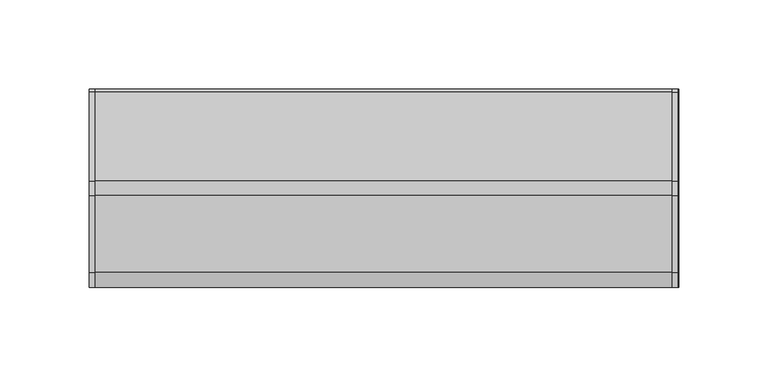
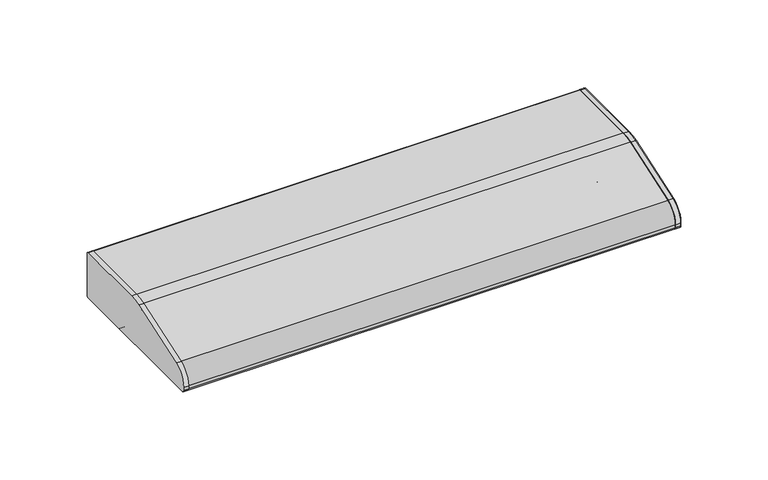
"""IFC4 building model written with IfcOpenShell, lengths in millimetres: light fixture geometry, HermanMiller_SupplementalProducts_G6136_UtilityTaskLight : AO Etho Canvas 24W."""

import ifcopenshell
import ifcopenshell.guid

model = None  # the IFC model being written
_history = None  # IfcOwnerHistory: only IFC2X3 demands one
_inside = {}  # id of a spatial element -> (the spatial element, [elements in it])
_under = {}  # id of a project, library or spatial element -> (it, [spatial elements below it])
_declared = {}  # id of a project -> (the project, [libraries it declares])
_typed = {}  # id of a type object -> (the type object, [elements of that type])
_made_of = {}  # id of a material, layer set ... -> (it, [elements and type objects made of it])


def new_model(schema):
    """Start an empty IFC model of exactly this schema.

    Asked for "IFC4X3", IfcOpenShell would pick the latest addendum, in which some entities
    have other attributes; the version numbers below select the first issue.
    IFC2X3 requires an IfcOwnerHistory on every rooted entity: one is made here for all.
    """
    global model, _history
    if schema == "IFC4X3":
        model = ifcopenshell.file(schema_version=(4, 3, 0, 0))
    else:
        model = ifcopenshell.file(schema=schema)
    _inside.clear()
    _under.clear()
    _declared.clear()
    _typed.clear()
    _made_of.clear()
    _history = None
    if model.schema == "IFC2X3":
        org = make("IfcOrganization", Name="unknown")
        user = make(
            "IfcPersonAndOrganization",
            ThePerson=make("IfcPerson", FamilyName="unknown"),
            TheOrganization=org,
        )
        app = make(
            "IfcApplication",
            ApplicationDeveloper=org,
            Version="unknown",
            ApplicationFullName="unknown",
            ApplicationIdentifier="unknown",
        )
        _history = make(
            "IfcOwnerHistory",
            OwningUser=user,
            OwningApplication=app,
            ChangeAction="ADDED",
            CreationDate=0,
        )
    return model


def make(cls, **values):
    """One entity of the class cls with the attributes given. An attribute that is None is left unset."""
    return model.create_entity(
        cls, **{name: value for name, value in values.items() if value is not None}
    )


def rooted(cls, **values):
    """An entity with a GlobalId (a new one), such as an element, a storey or a relation."""
    return make(cls, GlobalId=ifcopenshell.guid.new(), OwnerHistory=_history, **values)


def si_unit(unit_type, name, prefix=None):
    """IfcSIUnit, for example si_unit("LENGTHUNIT", "METRE", prefix="MILLI")."""
    return make("IfcSIUnit", UnitType=unit_type, Prefix=prefix, Name=name)


def assignment(units):
    """IfcUnitAssignment: the units of a project."""
    return None if units is None else make("IfcUnitAssignment", Units=units)


def point(xyz):
    """IfcCartesianPoint."""
    return None if xyz is None else make("IfcCartesianPoint", Coordinates=xyz)


def direction(xyz):
    """IfcDirection."""
    return None if xyz is None else make("IfcDirection", DirectionRatios=xyz)


def frame(location, z_axis=None, x_axis=None):
    """IfcAxis2Placement3D, a coordinate frame: its origin and axes. An axis left out is left unset."""
    return make(
        "IfcAxis2Placement3D",
        Location=point(location),
        Axis=direction(z_axis),
        RefDirection=direction(x_axis),
    )


def frame_2d(location, x_axis=None):
    """IfcAxis2Placement2D, a coordinate frame in the plane: its origin and x axis."""
    return make(
        "IfcAxis2Placement2D", Location=point(location), RefDirection=direction(x_axis)
    )


def origin():
    """The frame at (0, 0, 0) with its axes left unset."""
    return frame((0.0, 0.0, 0.0))


def place(relative_to, where):
    """IfcLocalPlacement: puts the frame where relative to a parent placement (None: the world)."""
    return make(
        "IfcLocalPlacement", PlacementRelTo=relative_to, RelativePlacement=where
    )


def context(
    kind, dimensions, precision=None, world=None, true_north=None, identifier=None
):
    """IfcGeometricRepresentationContext, for example the 3D "Model" context."""
    return make(
        "IfcGeometricRepresentationContext",
        ContextIdentifier=identifier,
        ContextType=kind,
        CoordinateSpaceDimension=dimensions,
        Precision=precision,
        WorldCoordinateSystem=world,
        TrueNorth=true_north,
    )


def project(units=None, contexts=None):
    """IfcProject with its units and contexts."""
    return rooted(
        "IfcProject",
        Name="project",
        RepresentationContexts=contexts,
        UnitsInContext=assignment(units),
    )


def spatial(cls, under=None, at=None, **own):
    """A site, building, storey or space (cls), placed at a placement, below another one or the project."""
    s = rooted(cls, ObjectPlacement=at, **own)
    if under is not None:
        _under.setdefault(under.id(), (under, []))[1].append(s)
    return s


def polyline(points):
    """IfcPolyline through the points."""
    return make("IfcPolyline", Points=[point(p) for p in points])


def circle_curve(where, radius):
    """IfcCircle in the frame where."""
    return make("IfcCircle", Position=where, Radius=radius)


def trimmed(basis, trim1, trim2, sense, master):
    """IfcTrimmedCurve: the piece of a basis curve between two trims."""
    return make(
        "IfcTrimmedCurve",
        BasisCurve=basis,
        Trim1=trim1,
        Trim2=trim2,
        SenseAgreement=sense,
        MasterRepresentation=master,
    )


def segment(curve, same_sense, transition):
    """IfcCompositeCurveSegment."""
    return make(
        "IfcCompositeCurveSegment",
        Transition=transition,
        SameSense=same_sense,
        ParentCurve=curve,
    )


def composite_curve(segments, self_intersect=None):
    """IfcCompositeCurve: segments joined end to end."""
    return make("IfcCompositeCurve", Segments=segments, SelfIntersect=self_intersect)


def outline(outer, holes=None, kind="AREA"):
    """IfcArbitraryClosedProfileDef: a profile drawn as a closed curve; with holes, ...WithVoids."""
    if holes is None:
        return make("IfcArbitraryClosedProfileDef", ProfileType=kind, OuterCurve=outer)
    return make(
        "IfcArbitraryProfileDefWithVoids",
        ProfileType=kind,
        OuterCurve=outer,
        InnerCurves=holes,
    )


def extrude(swept, where, along, depth):
    """IfcExtrudedAreaSolid: the profile swept, set in the frame where, extruded along a direction by depth."""
    return make(
        "IfcExtrudedAreaSolid",
        SweptArea=swept,
        Position=where,
        ExtrudedDirection=direction(along),
        Depth=depth,
    )


def shape(context_of_items, identifier, shape_type, items):
    """IfcShapeRepresentation: the items that make up one representation, for example the "Body"."""
    return make(
        "IfcShapeRepresentation",
        ContextOfItems=context_of_items,
        RepresentationIdentifier=identifier,
        RepresentationType=shape_type,
        Items=items,
    )


def source(mapping_origin, context_of_items, identifier, shape_type, items):
    """IfcRepresentationMap: a shape defined once, which mapped items show again and again."""
    return make(
        "IfcRepresentationMap",
        MappingOrigin=mapping_origin,
        MappedRepresentation=shape(context_of_items, identifier, shape_type, items),
    )


def transform(
    local_origin,
    x_axis=None,
    y_axis=None,
    z_axis=None,
    scale=None,
    scale2=None,
    scale3=None,
    uniform=True,
):
    """IfcCartesianTransformationOperator3D, or its non-uniform kind. x_axis, y_axis, z_axis: its Axis1, 2, 3."""
    if uniform:
        return make(
            "IfcCartesianTransformationOperator3D",
            Axis1=direction(x_axis),
            Axis2=direction(y_axis),
            LocalOrigin=point(local_origin),
            Scale=scale,
            Axis3=direction(z_axis),
        )
    return make(
        "IfcCartesianTransformationOperator3DnonUniform",
        Axis1=direction(x_axis),
        Axis2=direction(y_axis),
        LocalOrigin=point(local_origin),
        Scale=scale,
        Axis3=direction(z_axis),
        Scale2=scale2,
        Scale3=scale3,
    )


def mapped(mapping_source, mapping_target):
    """IfcMappedItem: shows the shape of a source again, moved by a transform."""
    return make(
        "IfcMappedItem", MappingSource=mapping_source, MappingTarget=mapping_target
    )


def made_of(thing, what):
    """Note that an element or type object is made of a material, layer set ...; save() writes the relation."""
    if what is not None:
        _made_of.setdefault(what.id(), (what, []))[1].append(thing)
    return thing


def element(
    cls,
    number,
    at=None,
    inside=None,
    cuts=None,
    type_object=None,
    material=None,
    context=None,
    identifier="Body",
    shape_type=None,
    held_by="IfcProductDefinitionShape",
    body=None,
    shapes=None,
    **own,
):
    """One element of the class cls, such as IfcWall. Its Tag is "e" and its number.

    at: its placement. inside: the storey or other place that contains it. cuts: it is an
    opening in that element (IfcRelVoidsElement). A single representation is given by context,
    identifier, shape_type and body (its items); several are given by shapes. held_by: the class
    of the entity that holds the representations. save() writes the other relations.
    """
    e = rooted(cls, Tag="e%d" % number, ObjectPlacement=at, **own)
    if body is not None:
        shapes = [shape(context, identifier, shape_type, body)]
    if shapes is not None:
        e.Representation = make(held_by, Representations=shapes)
    if inside is not None:
        _inside.setdefault(inside.id(), (inside, []))[1].append(e)
    if cuts is not None:
        rooted(
            "IfcRelVoidsElement", RelatingBuildingElement=cuts, RelatedOpeningElement=e
        )
    if type_object is not None:
        _typed.setdefault(type_object.id(), (type_object, []))[1].append(e)
    return made_of(e, material)


def aggregate(whole, parts):
    """IfcRelAggregates: a whole, such as a stair, and the parts it consists of."""
    return rooted("IfcRelAggregates", RelatingObject=whole, RelatedObjects=parts)


def save(model, path):
    """Write the relations noted so far, then the file.

    IfcRelAggregates (storeys below a building ...), IfcRelContainedInSpatialStructure (elements
    in a storey), IfcRelDefinesByType, IfcRelAssociatesMaterial and IfcRelDeclares: one each for
    every whole, place, type object, material and project.
    """
    for whole, parts in _under.values():
        aggregate(whole, parts)
    for where, things in _inside.values():
        rooted(
            "IfcRelContainedInSpatialStructure",
            RelatedElements=things,
            RelatingStructure=where,
        )
    for kind, things in _typed.values():
        rooted("IfcRelDefinesByType", RelatedObjects=things, RelatingType=kind)
    for what, things in _made_of.values():
        rooted("IfcRelAssociatesMaterial", RelatedObjects=things, RelatingMaterial=what)
    for by, libraries in _declared.values():
        rooted("IfcRelDeclares", RelatingContext=by, RelatedDefinitions=libraries)
    model.write(path)


def light_fixture_74d0946e(model_context):
    return source(origin(), model_context, "Body", "SweptSolid", [
        extrude(outline(composite_curve([segment(polyline([(53.975, 1289.05), (-53.975, 1289.05)]), True, "CONTINUOUS"), segment(trimmed(circle_curve(frame_2d((-53.975, 1290.6375)), 1.5875), [point((-53.975, 1289.05))], [point((-55.5625, 1290.6375))], False, "CARTESIAN"), True, "CONTINUOUS"), segment(polyline([(-55.5625, 1290.6375), (-55.5625, 1292.6785714)]), True, "CONTINUOUS"), segment(trimmed(circle_curve(frame_2d((-42.8625, 1292.6785714)), 12.7), [point((-55.5625, 1292.6785714))], [point((-46.9814189, 1304.6920849))], False, "CARTESIAN"), True, "CONTINUOUS"), segment(polyline([(-46.9814189, 1304.6920849), (-4.0045045, 1319.427027)]), True, "CONTINUOUS"), segment(trimmed(circle_curve(frame_2d((4.2333333, 1295.4)), 25.4), [point((-4.0045045, 1319.427027))], [point((4.2333333, 1320.8))], False, "CARTESIAN"), True, "CONTINUOUS"), segment(polyline([(4.2333333, 1320.8), (53.975, 1320.8)]), True, "CONTINUOUS"), segment(trimmed(circle_curve(frame_2d((53.975, 1319.2125)), 1.5875), [point((53.975, 1320.8))], [point((55.5625, 1319.2125))], False, "CARTESIAN"), True, "CONTINUOUS"), segment(polyline([(55.5625, 1319.2125), (55.5625, 1290.6375)]), True, "CONTINUOUS"), segment(trimmed(circle_curve(frame_2d((53.975, 1290.6375)), 1.5875), [point((55.5625, 1290.6375))], [point((53.975, 1289.05))], False, "CARTESIAN"), True, "CONTINUOUS")], self_intersect=False)), frame((161.544, 0.0, 0.0), z_axis=(1.0, 0.0, 0.0), x_axis=(0.0, 1.0, 0.0)), (0.0, 0.0, 1.0), 3.175),
        extrude(outline(composite_curve([segment(trimmed(circle_curve(frame_2d((53.975, 1319.2125)), 1.5875), [point((53.975, 1320.8))], [point((55.5625, 1319.2125))], False, "CARTESIAN"), True, "CONTINUOUS"), segment(polyline([(55.5625, 1319.2125), (55.5625, 1290.6375)]), True, "CONTINUOUS"), segment(trimmed(circle_curve(frame_2d((53.975, 1290.6375)), 1.5875), [point((55.5625, 1290.6375))], [point((53.975, 1289.05))], False, "CARTESIAN"), True, "CONTINUOUS"), segment(polyline([(53.975, 1289.05), (-53.975, 1289.05)]), True, "CONTINUOUS"), segment(trimmed(circle_curve(frame_2d((-53.975, 1290.6375)), 1.5875), [point((-53.975, 1289.05))], [point((-55.5625, 1290.6375))], False, "CARTESIAN"), True, "CONTINUOUS"), segment(polyline([(-55.5625, 1290.6375), (-55.5625, 1292.6785714)]), True, "CONTINUOUS"), segment(trimmed(circle_curve(frame_2d((-42.8625, 1292.6785714)), 12.7), [point((-55.5625, 1292.6785714))], [point((-46.9814189, 1304.6920849))], False, "CARTESIAN"), True, "CONTINUOUS"), segment(polyline([(-46.9814189, 1304.6920849), (-4.0045045, 1319.427027)]), True, "CONTINUOUS"), segment(trimmed(circle_curve(frame_2d((4.2333333, 1295.4)), 25.4), [point((-4.0045045, 1319.427027))], [point((4.2333333, 1320.8))], False, "CARTESIAN"), True, "CONTINUOUS"), segment(polyline([(4.2333333, 1320.8), (53.975, 1320.8)]), True, "CONTINUOUS")], self_intersect=False)), frame((-164.719, 0.0, 0.0), z_axis=(1.0, 0.0, 0.0), x_axis=(0.0, 1.0, 0.0)), (0.0, 0.0, 1.0), 3.175),
        extrude(outline(composite_curve([segment(polyline([(55.5625, 1319.2125), (55.5625, 1290.6375)]), True, "CONTINUOUS"), segment(trimmed(circle_curve(frame_2d((53.975, 1290.6375)), 1.5875), [point((55.5625, 1290.6375))], [point((53.975, 1289.05))], False, "CARTESIAN"), True, "CONTINUOUS"), segment(polyline([(53.975, 1289.05), (19.05, 1289.05)]), True, "CONTINUOUS"), segment(trimmed(circle_curve(frame_2d((19.05, 1290.6375)), 1.5875), [point((19.05, 1289.05))], [point((17.4625, 1290.6375))], False, "CARTESIAN"), True, "CONTINUOUS"), segment(polyline([(17.4625, 1290.6375), (17.4625, 1319.2125), (4.4979167, 1319.2125)]), True, "CONTINUOUS"), segment(trimmed(circle_curve(frame_2d((4.4979167, 1293.8125)), 25.4), [point((4.4979167, 1319.2125))], [point((-3.7399212, 1317.839527))], True, "CARTESIAN"), True, "CONTINUOUS"), segment(polyline([(-3.7399212, 1317.839527), (-37.4564189, 1306.2795849)]), True, "CONTINUOUS"), segment(trimmed(circle_curve(frame_2d((-33.3375, 1294.2660714)), 12.7), [point((-37.4564189, 1306.2795849))], [point((-46.0375, 1294.2660714))], True, "CARTESIAN"), True, "CONTINUOUS"), segment(polyline([(-46.0375, 1294.2660714), (-46.0375, 1290.6375)]), True, "CONTINUOUS"), segment(trimmed(circle_curve(frame_2d((-47.625, 1290.6375)), 1.5875), [point((-46.0375, 1290.6375))], [point((-47.625, 1289.05))], False, "CARTESIAN"), True, "CONTINUOUS"), segment(polyline([(-47.625, 1289.05), (-53.975, 1289.05)]), True, "CONTINUOUS"), segment(trimmed(circle_curve(frame_2d((-53.975, 1290.6375)), 1.5875), [point((-53.975, 1289.05))], [point((-55.5625, 1290.6375))], False, "CARTESIAN"), True, "CONTINUOUS"), segment(polyline([(-55.5625, 1290.6375), (-55.5625, 1292.6785714)]), True, "CONTINUOUS"), segment(trimmed(circle_curve(frame_2d((-42.8625, 1292.6785714)), 12.7), [point((-55.5625, 1292.6785714))], [point((-46.9814189, 1304.6920849))], False, "CARTESIAN"), True, "CONTINUOUS"), segment(polyline([(-46.9814189, 1304.6920849), (-4.0045045, 1319.427027)]), True, "CONTINUOUS"), segment(trimmed(circle_curve(frame_2d((4.2333333, 1295.4)), 25.4), [point((-4.0045045, 1319.427027))], [point((4.2333333, 1320.8))], False, "CARTESIAN"), True, "CONTINUOUS"), segment(polyline([(4.2333333, 1320.8), (53.975, 1320.8)]), True, "CONTINUOUS"), segment(trimmed(circle_curve(frame_2d((53.975, 1319.2125)), 1.5875), [point((53.975, 1320.8))], [point((55.5625, 1319.2125))], False, "CARTESIAN"), True, "CONTINUOUS")], self_intersect=False)), frame((-164.719, 0.0, 0.0), z_axis=(1.0, 0.0, 0.0), x_axis=(0.0, 1.0, 0.0)), (0.0, 0.0, 1.0), 329.9040011),
        extrude(outline(composite_curve([segment(trimmed(circle_curve(frame_2d((1.5875, 1306.5125)), 9.525), [point((-7.9375, 1306.5125))], [point((11.1125, 1306.5125))], False, "CARTESIAN"), True, "CONTINUOUS"), segment(trimmed(circle_curve(frame_2d((1.5875, 1306.5125)), 9.525), [point((11.1125, 1306.5125))], [point((-7.9375, 1306.5125))], False, "CARTESIAN"), True, "CONTINUOUS")], self_intersect=False)), frame((139.319, 0.0, 0.0), z_axis=(1.0, 0.0, 0.0), x_axis=(0.0, 1.0, 0.0)), (0.0, 0.0, 1.0), 12.7),
        extrude(outline(composite_curve([segment(trimmed(circle_curve(frame_2d((1.5875, 1306.5125)), 9.525), [point((-7.9375, 1306.5125))], [point((11.1125, 1306.5125))], False, "CARTESIAN"), True, "CONTINUOUS"), segment(trimmed(circle_curve(frame_2d((1.5875, 1306.5125)), 9.525), [point((11.1125, 1306.5125))], [point((-7.9375, 1306.5125))], False, "CARTESIAN"), True, "CONTINUOUS")], self_intersect=False)), frame((-152.019, 0.0, 0.0), z_axis=(1.0, 0.0, 0.0), x_axis=(0.0, 1.0, 0.0)), (0.0, 0.0, 1.0), 12.7),
        extrude(outline(composite_curve([segment(trimmed(circle_curve(frame_2d((1.5875, 1306.5125)), 9.525), [point((-7.9375, 1306.5125))], [point((11.1125, 1306.5125))], False, "CARTESIAN"), True, "CONTINUOUS"), segment(trimmed(circle_curve(frame_2d((1.5875, 1306.5125)), 9.525), [point((11.1125, 1306.5125))], [point((-7.9375, 1306.5125))], False, "CARTESIAN"), True, "CONTINUOUS")], self_intersect=False)), frame((-139.319, 0.0, 0.0), z_axis=(1.0, 0.0, 0.0), x_axis=(0.0, 1.0, 0.0)), (0.0, 0.0, 1.0), 278.638),
        extrude(outline(composite_curve([segment(polyline([(17.4625, 1292.225), (-46.0375, 1292.225), (-46.0375, 1294.2660714)]), True, "CONTINUOUS"), segment(trimmed(circle_curve(frame_2d((-33.3375, 1294.2660714)), 12.7), [point((-46.0375, 1294.2660714))], [point((-37.4564189, 1306.2795849))], False, "CARTESIAN"), True, "CONTINUOUS"), segment(polyline([(-37.4564189, 1306.2795849), (-3.7399212, 1317.839527)]), True, "CONTINUOUS"), segment(trimmed(circle_curve(frame_2d((4.4979167, 1293.8125)), 25.4), [point((-3.7399212, 1317.839527))], [point((4.4979167, 1319.2125))], False, "CARTESIAN"), True, "CONTINUOUS"), segment(polyline([(4.4979167, 1319.2125), (17.4625, 1319.2125), (17.4625, 1292.225)]), True, "CONTINUOUS")], self_intersect=False)), frame((152.019, 0.0, 0.0), z_axis=(1.0, 0.0, 0.0), x_axis=(0.0, 1.0, 0.0)), (0.0, 0.0, 1.0), 9.525),
        extrude(outline(composite_curve([segment(polyline([(17.4625, 1292.225), (-46.0375, 1292.225), (-46.0375, 1294.2660714)]), True, "CONTINUOUS"), segment(trimmed(circle_curve(frame_2d((-33.3375, 1294.2660714)), 12.7), [point((-46.0375, 1294.2660714))], [point((-37.4564189, 1306.2795849))], False, "CARTESIAN"), True, "CONTINUOUS"), segment(polyline([(-37.4564189, 1306.2795849), (-3.7399212, 1317.839527)]), True, "CONTINUOUS"), segment(trimmed(circle_curve(frame_2d((4.4979167, 1293.8125)), 25.4), [point((-3.7399212, 1317.839527))], [point((4.4979167, 1319.2125))], False, "CARTESIAN"), True, "CONTINUOUS"), segment(polyline([(4.4979167, 1319.2125), (17.4625, 1319.2125), (17.4625, 1292.225)]), True, "CONTINUOUS")], self_intersect=False)), frame((-161.544, 0.0, 0.0), z_axis=(1.0, 0.0, 0.0), x_axis=(0.0, 1.0, 0.0)), (0.0, 0.0, 1.0), 9.525),
    ])


if __name__ == "__main__":
    model = new_model("IFC4")
    model_context = context("Model", 3, world=origin())
    ifc_project = project(units=[si_unit("LENGTHUNIT", "METRE", prefix="MILLI")], contexts=[model_context])
    site = spatial("IfcSite", under=ifc_project)
    building = spatial("IfcBuilding", under=site)
    placement = place(None, origin())
    light_fixture_shape = light_fixture_74d0946e(model_context)
    element("IfcLightFixture", 1, ObjectType="HermanMiller_SupplementalProducts_G6136_UtilityTaskLight : AO Etho Canvas 24W", at=placement, inside=building, context=model_context, shape_type="MappedRepresentation", body=[
        mapped(light_fixture_shape, transform((0.0, 0.0, 0.0), x_axis=(1.0, 0.0, 0.0), y_axis=(0.0, 1.0, 0.0), z_axis=(0.0, 0.0, 1.0))),
    ])
    save(model, "model.ifc")
